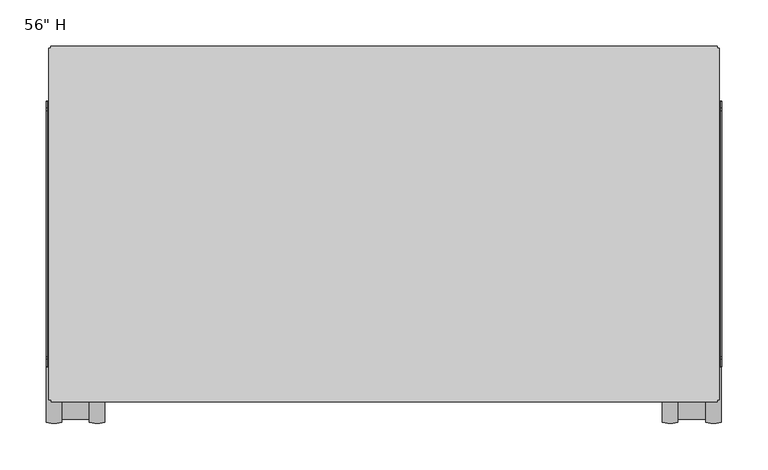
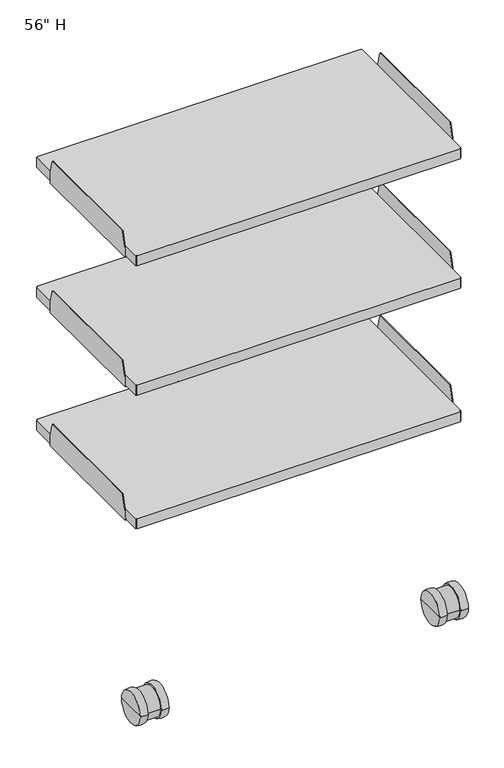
"""IFC4 building model written with IfcOpenShell, lengths in millimetres: furniture geometry."""

from ifc_helpers import new_model, si_unit, point, frame, origin, place, context, project, spatial, polyline, circle_curve, ellipse_curve, trimmed, outline, extrude, faceted_brep, source, transform, mapped, element, save
from ifc_brep_helpers import plane_surface, cylinder_surface, revolved_surface, advanced_brep


def furniture_dcce212d(model_context):
    return source(origin(), model_context, "Body", "SolidModel", [
        advanced_brep(
        [(365.3861713, -354.1500796, 1138.5314214), (365.3861713, -88.5317585, 1138.5314214), (364.3219115, -88.5317409, 1138.5314214), (364.3219115, -354.1500796, 1138.5314214), (365.3861713, -357.216876, 1136.1781857), (365.3861713, -364.9009405, 1107.5008654), (365.3861713, -365.0937117, 1106.0366229), (365.3861713, -365.0937117, 1081.9046453), (365.3861713, -77.5881087, 1081.9046453), (365.3861713, -77.5881087, 1106.0366229), (365.3861713, -77.7808799, 1107.5008654), (365.3861713, -85.4649444, 1136.1781857), (350.8408617, -365.0937117, 1081.9046453), (350.8408617, -77.5881087, 1081.9046453), (350.8408617, -365.0937117, 1082.9689336), (350.8408617, -77.5881087, 1082.9689336), (364.3219115, -365.0937117, 1082.9689336), (364.3219115, -77.5881087, 1082.9689336), (364.3219115, -365.0937117, 1106.0366229), (364.3219115, -364.9009405, 1107.5008654), (364.3219115, -357.216876, 1136.1781857), (364.3219115, -85.4649444, 1136.1781857), (364.3219115, -77.7808799, 1107.5008654), (364.3219115, -77.5881087, 1106.0366229)],
        [
            (0, 1),
            (1, 2),
            (2, 3),
            (3, 0),
            (0, 4, circle_curve(frame((365.3861713, -354.1500796, 1135.3564401), z_axis=(1.0, 0.0, 0.0), x_axis=(0.0, 1.0, 0.0)), 3.1749813)),
            (4, 5),
            (5, 6, circle_curve(frame((365.3861713, -359.4363126, 1106.0366229), z_axis=(1.0, 0.0, 0.0), x_axis=(0.0, 1.0, 0.0)), 5.6573991)),
            (6, 7),
            (7, 8),
            (8, 9),
            (9, 10, circle_curve(frame((365.3861713, -83.2455078, 1106.0366229), z_axis=(1.0, 0.0, 0.0), x_axis=(0.0, 1.0, 0.0)), 5.6573991)),
            (10, 11),
            (11, 1, circle_curve(frame((365.3861713, -88.5317409, 1135.3564401), z_axis=(1.0, 0.0, 0.0), x_axis=(0.0, 1.0, 0.0)), 3.1749813)),
            (7, 12),
            (12, 13),
            (13, 8),
            (12, 14),
            (14, 15),
            (15, 13),
            (14, 16),
            (16, 17),
            (17, 15),
            (16, 18),
            (18, 19, circle_curve(frame((364.3219115, -359.4363126, 1106.0366229), z_axis=(-1.0, 0.0, 0.0), x_axis=(0.0, 1.0, 0.0)), 5.6573991)),
            (19, 20),
            (20, 3, circle_curve(frame((364.3219115, -354.1500796, 1135.3564401), z_axis=(-1.0, 0.0, 0.0), x_axis=(0.0, 1.0, 0.0)), 3.1749813)),
            (2, 21, circle_curve(frame((364.3219115, -88.5317409, 1135.3564401), z_axis=(-1.0, 0.0, 0.0), x_axis=(0.0, 1.0, 0.0)), 3.1749813)),
            (21, 22),
            (22, 23, circle_curve(frame((364.3219115, -83.2455078, 1106.0366229), z_axis=(-1.0, 0.0, 0.0), x_axis=(0.0, 1.0, 0.0)), 5.6573991)),
            (23, 17),
            (9, 23),
            (22, 10),
            (11, 21),
            (4, 20),
            (19, 5),
            (6, 18),
        ],
        [
            plane_surface(frame((365.3861713, -372.4896789, 1138.5314214), z_axis=(0.0, 0.0, 1.0), x_axis=(0.0, 1.0, 0.0))),
            plane_surface(frame((365.3861713, -372.4896789, 1081.9046453), z_axis=(1.0, 0.0, 0.0), x_axis=(0.0, 1.0, 0.0))),
            plane_surface(frame((350.8408617, -372.4896789, 1081.9046453), z_axis=(0.0, 0.0, -1.0), x_axis=(0.0, 1.0, 0.0))),
            plane_surface(frame((350.8408617, -372.4896789, 1082.9689336), z_axis=(-1.0, 0.0, 0.0), x_axis=(0.0, 1.0, 0.0))),
            plane_surface(frame((364.3219115, -372.4896789, 1082.9689336), z_axis=(0.0, 0.0, 1.0), x_axis=(0.0, 1.0, 0.0))),
            plane_surface(frame((364.3219115, -372.4896789, 1138.5314214), z_axis=(-1.0, 0.0, 0.0), x_axis=(0.0, 1.0, 0.0))),
            cylinder_surface(frame((396.9108471, -83.2455078, 1106.0366229), z_axis=(1.0, 0.0, 0.0), x_axis=(0.0, 1.0, 0.0)), 5.6573991),
            plane_surface(frame((319.5267461, -77.5881087, 1076.7225019), z_axis=(0.0, 1.0, 0.0), x_axis=(1.0, 0.0, 0.0))),
            cylinder_surface(frame((396.9108471, -88.5317409, 1135.3564401), z_axis=(1.0, 0.0, 0.0), x_axis=(0.0, 1.0, 0.0)), 3.1749813),
            plane_surface(frame((319.5267461, -77.7808799, 1107.5008654), z_axis=(0.0, 0.9659258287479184, 0.25881903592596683), x_axis=(1.0, 0.0, 0.0))),
            plane_surface(frame((319.5267461, -357.216876, 1136.1781857), z_axis=(0.0, -0.9659258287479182, 0.25881903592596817), x_axis=(1.0, 0.0, 0.0))),
            cylinder_surface(frame((381.5127972, -354.1500796, 1135.3564401), z_axis=(1.0, 0.0, 0.0), x_axis=(0.0, 1.0, 0.0)), 3.1749813),
            plane_surface(frame((319.5267461, -365.0937117, 1106.0366229), z_axis=(0.0, -1.0, 0.0), x_axis=(1.0, 0.0, 0.0))),
            cylinder_surface(frame((381.5127972, -359.4363126, 1106.0366229), z_axis=(1.0, 0.0, 0.0), x_axis=(0.0, 1.0, 0.0)), 5.6573991),
        ],
        [
            (0, [[1, 2, 3, 4]]),
            (1, [[-1, 5, 6, 7, 8, 9, 10, 11, 12, 13]]),
            (2, [[-9, 14, 15, 16]]),
            (3, [[-15, 17, 18, 19]]),
            (4, [[-18, 20, 21, 22]]),
            (5, [[-21, 23, 24, 25, 26, -3, 27, 28, 29, 30]]),
            (6, [[31, -29, 32, -11]]),
            (7, [[-31, -10, -16, -19, -22, -30]]),
            (8, [[33, -27, -2, -13]]),
            (9, [[-33, -12, -32, -28]]),
            (10, [[34, -25, 35, -6]]),
            (11, [[-34, -5, -4, -26]]),
            (12, [[36, -23, -20, -17, -14, -8]]),
            (13, [[-36, -7, -35, -24]]),
        ],
    ),
        advanced_brep(
        [(-363.8091143, -354.1500796, 1138.5314214), (-363.8091143, -88.5317585, 1138.5314214), (-364.8733741, -88.5317409, 1138.5314214), (-364.8733741, -354.1500796, 1138.5314214), (-364.8733741, -85.4649444, 1136.1781857), (-364.8733741, -77.7808799, 1107.5008654), (-364.8733741, -77.5881087, 1106.0366229), (-364.8733741, -77.5881087, 1081.9046453), (-364.8733741, -365.0937117, 1081.9046453), (-364.8733741, -365.0937117, 1106.0366229), (-364.8733741, -364.9009405, 1107.5008654), (-364.8733741, -357.216876, 1136.1781857), (-350.3280645, -77.5881087, 1081.9046453), (-350.3280645, -365.0937117, 1081.9046453), (-350.3280645, -77.5881087, 1082.9689336), (-350.3280645, -365.0937117, 1082.9689336), (-363.8091143, -77.5881087, 1082.9689336), (-363.8091143, -365.0937117, 1082.9689336), (-363.8091143, -357.216876, 1136.1781857), (-363.8091143, -364.9009405, 1107.5008654), (-363.8091143, -365.0937117, 1106.0366229), (-363.8091143, -77.5881087, 1106.0366229), (-363.8091143, -77.7808799, 1107.5008654), (-363.8091143, -85.4649444, 1136.1781857)],
        [
            (0, 1),
            (1, 2),
            (2, 3),
            (3, 0),
            (2, 4, circle_curve(frame((-364.8733741, -88.5317409, 1135.3564401), z_axis=(-1.0, 0.0, 0.0), x_axis=(0.0, 1.0, 0.0)), 3.1749813)),
            (4, 5),
            (5, 6, circle_curve(frame((-364.8733741, -83.2455078, 1106.0366229), z_axis=(-1.0, 0.0, 0.0), x_axis=(0.0, 1.0, 0.0)), 5.6573991)),
            (6, 7),
            (7, 8),
            (8, 9),
            (9, 10, circle_curve(frame((-364.8733741, -359.4363126, 1106.0366229), z_axis=(-1.0, 0.0, 0.0), x_axis=(0.0, 1.0, 0.0)), 5.6573991)),
            (10, 11),
            (11, 3, circle_curve(frame((-364.8733741, -354.1500796, 1135.3564401), z_axis=(-1.0, 0.0, 0.0), x_axis=(0.0, 1.0, 0.0)), 3.1749813)),
            (7, 12),
            (12, 13),
            (13, 8),
            (12, 14),
            (14, 15),
            (15, 13),
            (14, 16),
            (16, 17),
            (17, 15),
            (0, 18, circle_curve(frame((-363.8091143, -354.1500796, 1135.3564401), z_axis=(1.0, 0.0, 0.0), x_axis=(0.0, 1.0, 0.0)), 3.1749813)),
            (18, 19),
            (19, 20, circle_curve(frame((-363.8091143, -359.4363126, 1106.0366229), z_axis=(1.0, 0.0, 0.0), x_axis=(0.0, 1.0, 0.0)), 5.6573991)),
            (20, 17),
            (16, 21),
            (21, 22, circle_curve(frame((-363.8091143, -83.2455078, 1106.0366229), z_axis=(1.0, 0.0, 0.0), x_axis=(0.0, 1.0, 0.0)), 5.6573991)),
            (22, 23),
            (23, 1, circle_curve(frame((-363.8091143, -88.5317409, 1135.3564401), z_axis=(1.0, 0.0, 0.0), x_axis=(0.0, 1.0, 0.0)), 3.1749813)),
            (5, 22),
            (21, 6),
            (23, 4),
            (10, 19),
            (18, 11),
            (20, 9),
        ],
        [
            plane_surface(frame((-363.8091143, -372.4896789, 1138.5314214), z_axis=(0.0, 0.0, 1.0), x_axis=(0.0, 1.0, 0.0))),
            plane_surface(frame((-364.8733741, -372.4896789, 1138.5314214), z_axis=(-1.0, 0.0, 0.0), x_axis=(0.0, 1.0, 0.0))),
            plane_surface(frame((-364.8733741, -372.4896789, 1081.9046453), z_axis=(0.0, 0.0, -1.0), x_axis=(0.0, 1.0, 0.0))),
            plane_surface(frame((-350.3280645, -372.4896789, 1081.9046453), z_axis=(1.0, 0.0, 0.0), x_axis=(0.0, 1.0, 0.0))),
            plane_surface(frame((-350.3280645, -372.4896789, 1082.9689336), z_axis=(0.0, 0.0, 1.0), x_axis=(0.0, 1.0, 0.0))),
            plane_surface(frame((-363.8091143, -372.4896789, 1082.9689336), z_axis=(1.0, 0.0, 0.0), x_axis=(0.0, 1.0, 0.0))),
            cylinder_surface(frame((-396.3980499, -83.2455078, 1106.0366229), z_axis=(-1.0, 0.0, 0.0), x_axis=(0.0, 1.0, 0.0)), 5.6573991),
            plane_surface(frame((-319.0139489, -77.5881087, 1106.0366229), z_axis=(0.0, 1.0, 0.0), x_axis=(-1.0, 0.0, 0.0))),
            cylinder_surface(frame((-396.3980499, -88.5317409, 1135.3564401), z_axis=(-1.0, 0.0, 0.0), x_axis=(0.0, 1.0, 0.0)), 3.1749813),
            plane_surface(frame((-319.0139489, -85.4649444, 1136.1781857), z_axis=(0.0, 0.9659258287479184, 0.25881903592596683), x_axis=(-1.0, 0.0, 0.0))),
            plane_surface(frame((-319.0139489, -364.9009405, 1107.5008654), z_axis=(0.0, -0.9659258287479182, 0.25881903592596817), x_axis=(-1.0, 0.0, 0.0))),
            cylinder_surface(frame((-381.0, -354.1500796, 1135.3564401), z_axis=(-1.0, 0.0, 0.0), x_axis=(0.0, 1.0, 0.0)), 3.1749813),
            plane_surface(frame((-319.0139489, -365.0937117, 1076.7225019), z_axis=(0.0, -1.0, 0.0), x_axis=(-1.0, 0.0, 0.0))),
            cylinder_surface(frame((-381.0, -359.4363126, 1106.0366229), z_axis=(-1.0, 0.0, 0.0), x_axis=(0.0, 1.0, 0.0)), 5.6573991),
        ],
        [
            (0, [[1, 2, 3, 4]]),
            (1, [[-3, 5, 6, 7, 8, 9, 10, 11, 12, 13]]),
            (2, [[-9, 14, 15, 16]]),
            (3, [[-15, 17, 18, 19]]),
            (4, [[-18, 20, 21, 22]]),
            (5, [[-1, 23, 24, 25, 26, -21, 27, 28, 29, 30]]),
            (6, [[31, -28, 32, -7]]),
            (7, [[-32, -27, -20, -17, -14, -8]]),
            (8, [[33, -5, -2, -30]]),
            (9, [[-31, -6, -33, -29]]),
            (10, [[34, -24, 35, -12]]),
            (11, [[-35, -23, -4, -13]]),
            (12, [[36, -10, -16, -19, -22, -26]]),
            (13, [[-34, -11, -36, -25]]),
        ],
    ),
        extrude(outline(polyline([(-349.4884347, -388.481394), (-360.8620793, -399.8550385), (-360.8620793, -21.7189052), (-349.4884347, -33.0925498), (-349.4884347, -388.481394)])), frame((0.0, 0.0, 1083.0128626), z_axis=(0.0, 0.0, 1.0), x_axis=(1.0, 0.0, 0.0)), (0.0, 0.0, 1.0), 1.1600309),
        extrude(outline(polyline([(-347.1583906, -390.6316916), (347.6711878, -390.6316916), (359.1880962, -402.1486001), (-358.6752991, -402.1486001), (-347.1583906, -390.6316916)])), frame((0.0, 0.0, 1083.0128626), z_axis=(0.0, 0.0, 1.0), x_axis=(1.0, 0.0, 0.0)), (0.0, 0.0, 1.0), 1.1600309),
        extrude(outline(polyline([(350.0012319, -388.481394), (350.0012319, -33.0925498), (361.3748764, -21.7189052), (361.3748764, -399.8550385), (350.0012319, -388.481394)])), frame((0.0, 0.0, 1083.0128626), z_axis=(0.0, 0.0, 1.0), x_axis=(1.0, 0.0, 0.0)), (0.0, 0.0, 1.0), 1.1600309),
        extrude(outline(polyline([(-347.1583906, -30.9422521), (-358.6752991, -19.4253437), (359.1880962, -19.4253437), (347.6711878, -30.9422521), (-347.1583906, -30.9422521)])), frame((0.0, 0.0, 1083.0128626), z_axis=(0.0, 0.0, 1.0), x_axis=(1.0, 0.0, 0.0)), (0.0, 0.0, 1.0), 1.1600309),
        faceted_brep([(-359.7667053, -403.2400064, 1106.4875), (360.2856307, -403.2400064, 1106.4875), (360.2856307, -401.0456635, 1106.4875), (362.6092621, -401.0456635, 1106.4875), (362.6092621, -20.5731343, 1106.4875), (360.3232824, -20.5731343, 1106.4875), (360.3232824, -18.2422801, 1106.4875), (-359.8401436, -18.2422801, 1106.4875), (-359.8401436, -20.5282802, 1106.4875), (-362.0527043, -20.5282802, 1106.4875), (-362.0527043, -401.0456635, 1106.4875), (-359.7667053, -401.0456635, 1106.4875), (-362.0527043, -401.0456635, 1082.9689336), (-362.0527043, -20.5282802, 1082.9689336), (-360.8403128, -20.5282802, 1082.9689336), (-360.8403128, -401.0456635, 1082.9689336), (-359.8401436, -18.2422801, 1082.9689336), (360.3232824, -18.2422801, 1082.9689336), (360.3232824, -19.4577869, 1082.9689336), (-359.8401436, -19.4577869, 1082.9689336), (362.6092621, -20.5731343, 1082.9689336), (362.6092621, -401.0456635, 1082.9689336), (361.3692615, -401.0456635, 1082.9689336), (361.3692615, -20.5731343, 1082.9689336), (360.2856307, -403.2400064, 1082.9689336), (-359.7667053, -403.2400064, 1082.9689336), (-359.7667053, -402.1342029, 1082.9689336), (360.2856307, -402.1342029, 1082.9689336), (360.2856307, -402.1342029, 1105.5901545), (360.2856307, -401.0456635, 1105.5901545), (361.3692615, -401.0456635, 1105.5901545), (361.3692615, -20.5731343, 1105.5901545), (360.3232824, -20.5731343, 1105.5901545), (360.3232824, -19.4577869, 1105.5901545), (-359.8401436, -19.4577869, 1105.5901545), (-359.8401436, -20.5282802, 1105.5901545), (-360.8403128, -20.5282802, 1105.5901545), (-360.8403128, -401.0456635, 1105.5901545), (-359.7667053, -401.0456635, 1105.5901545), (-359.7667053, -402.1342029, 1105.5901545)], [[[0, 1, 2, 3, 4, 5, 6, 7, 8, 9, 10, 11]], [[12, 13, 14, 15]], [[16, 17, 18, 19]], [[20, 21, 22, 23]], [[24, 25, 26, 27]], [[1, 0, 25, 24]], [[2, 1, 24, 27, 28, 29]], [[3, 2, 29, 30, 22, 21]], [[4, 3, 21, 20]], [[5, 4, 20, 23, 31, 32]], [[6, 5, 32, 33, 18, 17]], [[7, 6, 17, 16]], [[8, 7, 16, 19, 34, 35]], [[9, 8, 35, 36, 14, 13]], [[10, 9, 13, 12]], [[11, 10, 12, 15, 37, 38]], [[0, 11, 38, 39, 26, 25]], [[28, 39, 38, 37, 36, 35, 34, 33, 32, 31, 30, 29]], [[30, 31, 23, 22]], [[33, 34, 19, 18]], [[36, 37, 15, 14]], [[39, 28, 27, 26]]]),
        advanced_brep(
        [(365.3861713, -354.1500796, 833.7314214), (365.3861713, -88.5317585, 833.7314214), (364.3219115, -88.5317409, 833.7314214), (364.3219115, -354.1500796, 833.7314214), (365.3861713, -357.216876, 831.3781857), (365.3861713, -364.9009405, 802.7008654), (365.3861713, -365.0937117, 801.2366229), (365.3861713, -365.0937117, 777.1046453), (365.3861713, -77.5881087, 777.1046453), (365.3861713, -77.5881087, 801.2366229), (365.3861713, -77.7808799, 802.7008654), (365.3861713, -85.4649444, 831.3781857), (350.8408617, -365.0937117, 777.1046453), (350.8408617, -77.5881087, 777.1046453), (350.8408617, -365.0937117, 778.1689336), (350.8408617, -77.5881087, 778.1689336), (364.3219115, -365.0937117, 778.1689336), (364.3219115, -77.5881087, 778.1689336), (364.3219115, -365.0937117, 801.2366229), (364.3219115, -364.9009405, 802.7008654), (364.3219115, -357.216876, 831.3781857), (364.3219115, -85.4649444, 831.3781857), (364.3219115, -77.7808799, 802.7008654), (364.3219115, -77.5881087, 801.2366229)],
        [
            (0, 1),
            (1, 2),
            (2, 3),
            (3, 0),
            (0, 4, circle_curve(frame((365.3861713, -354.1500796, 830.5564401), z_axis=(1.0, 0.0, 0.0), x_axis=(0.0, 1.0, 0.0)), 3.1749813)),
            (4, 5),
            (5, 6, circle_curve(frame((365.3861713, -359.4363126, 801.2366229), z_axis=(1.0, 0.0, 0.0), x_axis=(0.0, 1.0, 0.0)), 5.6573991)),
            (6, 7),
            (7, 8),
            (8, 9),
            (9, 10, circle_curve(frame((365.3861713, -83.2455078, 801.2366229), z_axis=(1.0, 0.0, 0.0), x_axis=(0.0, 1.0, 0.0)), 5.6573991)),
            (10, 11),
            (11, 1, circle_curve(frame((365.3861713, -88.5317409, 830.5564401), z_axis=(1.0, 0.0, 0.0), x_axis=(0.0, 1.0, 0.0)), 3.1749813)),
            (7, 12),
            (12, 13),
            (13, 8),
            (12, 14),
            (14, 15),
            (15, 13),
            (14, 16),
            (16, 17),
            (17, 15),
            (16, 18),
            (18, 19, circle_curve(frame((364.3219115, -359.4363126, 801.2366229), z_axis=(-1.0, 0.0, 0.0), x_axis=(0.0, 1.0, 0.0)), 5.6573991)),
            (19, 20),
            (20, 3, circle_curve(frame((364.3219115, -354.1500796, 830.5564401), z_axis=(-1.0, 0.0, 0.0), x_axis=(0.0, 1.0, 0.0)), 3.1749813)),
            (2, 21, circle_curve(frame((364.3219115, -88.5317409, 830.5564401), z_axis=(-1.0, 0.0, 0.0), x_axis=(0.0, 1.0, 0.0)), 3.1749813)),
            (21, 22),
            (22, 23, circle_curve(frame((364.3219115, -83.2455078, 801.2366229), z_axis=(-1.0, 0.0, 0.0), x_axis=(0.0, 1.0, 0.0)), 5.6573991)),
            (23, 17),
            (9, 23),
            (22, 10),
            (11, 21),
            (4, 20),
            (19, 5),
            (6, 18),
        ],
        [
            plane_surface(frame((365.3861713, -372.4896789, 833.7314214), z_axis=(0.0, 0.0, 1.0), x_axis=(0.0, 1.0, 0.0))),
            plane_surface(frame((365.3861713, -372.4896789, 777.1046453), z_axis=(1.0, 0.0, 0.0), x_axis=(0.0, 1.0, 0.0))),
            plane_surface(frame((350.8408617, -372.4896789, 777.1046453), z_axis=(0.0, 0.0, -1.0), x_axis=(0.0, 1.0, 0.0))),
            plane_surface(frame((350.8408617, -372.4896789, 778.1689336), z_axis=(-1.0, 0.0, 0.0), x_axis=(0.0, 1.0, 0.0))),
            plane_surface(frame((364.3219115, -372.4896789, 778.1689336), z_axis=(0.0, 0.0, 1.0), x_axis=(0.0, 1.0, 0.0))),
            plane_surface(frame((364.3219115, -372.4896789, 833.7314214), z_axis=(-1.0, 0.0, 0.0), x_axis=(0.0, 1.0, 0.0))),
            cylinder_surface(frame((396.9108471, -83.2455078, 801.2366229), z_axis=(1.0, 0.0, 0.0), x_axis=(0.0, 1.0, 0.0)), 5.6573991),
            plane_surface(frame((319.5267461, -77.5881087, 771.9225019), z_axis=(0.0, 1.0, 0.0), x_axis=(1.0, 0.0, 0.0))),
            cylinder_surface(frame((396.9108471, -88.5317409, 830.5564401), z_axis=(1.0, 0.0, 0.0), x_axis=(0.0, 1.0, 0.0)), 3.1749813),
            plane_surface(frame((319.5267461, -77.7808799, 802.7008654), z_axis=(0.0, 0.9659258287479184, 0.25881903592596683), x_axis=(1.0, 0.0, 0.0))),
            plane_surface(frame((319.5267461, -357.216876, 831.3781857), z_axis=(0.0, -0.9659258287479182, 0.25881903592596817), x_axis=(1.0, 0.0, 0.0))),
            cylinder_surface(frame((381.5127972, -354.1500796, 830.5564401), z_axis=(1.0, 0.0, 0.0), x_axis=(0.0, 1.0, 0.0)), 3.1749813),
            plane_surface(frame((319.5267461, -365.0937117, 801.2366229), z_axis=(0.0, -1.0, 0.0), x_axis=(1.0, 0.0, 0.0))),
            cylinder_surface(frame((381.5127972, -359.4363126, 801.2366229), z_axis=(1.0, 0.0, 0.0), x_axis=(0.0, 1.0, 0.0)), 5.6573991),
        ],
        [
            (0, [[1, 2, 3, 4]]),
            (1, [[-1, 5, 6, 7, 8, 9, 10, 11, 12, 13]]),
            (2, [[-9, 14, 15, 16]]),
            (3, [[-15, 17, 18, 19]]),
            (4, [[-18, 20, 21, 22]]),
            (5, [[-21, 23, 24, 25, 26, -3, 27, 28, 29, 30]]),
            (6, [[31, -29, 32, -11]]),
            (7, [[-31, -10, -16, -19, -22, -30]]),
            (8, [[33, -27, -2, -13]]),
            (9, [[-33, -12, -32, -28]]),
            (10, [[34, -25, 35, -6]]),
            (11, [[-34, -5, -4, -26]]),
            (12, [[36, -23, -20, -17, -14, -8]]),
            (13, [[-36, -7, -35, -24]]),
        ],
    ),
        advanced_brep(
        [(-363.8091143, -354.1500796, 833.7314214), (-363.8091143, -88.5317585, 833.7314214), (-364.8733741, -88.5317409, 833.7314214), (-364.8733741, -354.1500796, 833.7314214), (-364.8733741, -85.4649444, 831.3781857), (-364.8733741, -77.7808799, 802.7008654), (-364.8733741, -77.5881087, 801.2366229), (-364.8733741, -77.5881087, 777.1046453), (-364.8733741, -365.0937117, 777.1046453), (-364.8733741, -365.0937117, 801.2366229), (-364.8733741, -364.9009405, 802.7008654), (-364.8733741, -357.216876, 831.3781857), (-350.3280645, -77.5881087, 777.1046453), (-350.3280645, -365.0937117, 777.1046453), (-350.3280645, -77.5881087, 778.1689336), (-350.3280645, -365.0937117, 778.1689336), (-363.8091143, -77.5881087, 778.1689336), (-363.8091143, -365.0937117, 778.1689336), (-363.8091143, -357.216876, 831.3781857), (-363.8091143, -364.9009405, 802.7008654), (-363.8091143, -365.0937117, 801.2366229), (-363.8091143, -77.5881087, 801.2366229), (-363.8091143, -77.7808799, 802.7008654), (-363.8091143, -85.4649444, 831.3781857)],
        [
            (0, 1),
            (1, 2),
            (2, 3),
            (3, 0),
            (2, 4, circle_curve(frame((-364.8733741, -88.5317409, 830.5564401), z_axis=(-1.0, 0.0, 0.0), x_axis=(0.0, 1.0, 0.0)), 3.1749813)),
            (4, 5),
            (5, 6, circle_curve(frame((-364.8733741, -83.2455078, 801.2366229), z_axis=(-1.0, 0.0, 0.0), x_axis=(0.0, 1.0, 0.0)), 5.6573991)),
            (6, 7),
            (7, 8),
            (8, 9),
            (9, 10, circle_curve(frame((-364.8733741, -359.4363126, 801.2366229), z_axis=(-1.0, 0.0, 0.0), x_axis=(0.0, 1.0, 0.0)), 5.6573991)),
            (10, 11),
            (11, 3, circle_curve(frame((-364.8733741, -354.1500796, 830.5564401), z_axis=(-1.0, 0.0, 0.0), x_axis=(0.0, 1.0, 0.0)), 3.1749813)),
            (7, 12),
            (12, 13),
            (13, 8),
            (12, 14),
            (14, 15),
            (15, 13),
            (14, 16),
            (16, 17),
            (17, 15),
            (0, 18, circle_curve(frame((-363.8091143, -354.1500796, 830.5564401), z_axis=(1.0, 0.0, 0.0), x_axis=(0.0, 1.0, 0.0)), 3.1749813)),
            (18, 19),
            (19, 20, circle_curve(frame((-363.8091143, -359.4363126, 801.2366229), z_axis=(1.0, 0.0, 0.0), x_axis=(0.0, 1.0, 0.0)), 5.6573991)),
            (20, 17),
            (16, 21),
            (21, 22, circle_curve(frame((-363.8091143, -83.2455078, 801.2366229), z_axis=(1.0, 0.0, 0.0), x_axis=(0.0, 1.0, 0.0)), 5.6573991)),
            (22, 23),
            (23, 1, circle_curve(frame((-363.8091143, -88.5317409, 830.5564401), z_axis=(1.0, 0.0, 0.0), x_axis=(0.0, 1.0, 0.0)), 3.1749813)),
            (5, 22),
            (21, 6),
            (23, 4),
            (10, 19),
            (18, 11),
            (20, 9),
        ],
        [
            plane_surface(frame((-363.8091143, -372.4896789, 833.7314214), z_axis=(0.0, 0.0, 1.0), x_axis=(0.0, 1.0, 0.0))),
            plane_surface(frame((-364.8733741, -372.4896789, 833.7314214), z_axis=(-1.0, 0.0, 0.0), x_axis=(0.0, 1.0, 0.0))),
            plane_surface(frame((-364.8733741, -372.4896789, 777.1046453), z_axis=(0.0, 0.0, -1.0), x_axis=(0.0, 1.0, 0.0))),
            plane_surface(frame((-350.3280645, -372.4896789, 777.1046453), z_axis=(1.0, 0.0, 0.0), x_axis=(0.0, 1.0, 0.0))),
            plane_surface(frame((-350.3280645, -372.4896789, 778.1689336), z_axis=(0.0, 0.0, 1.0), x_axis=(0.0, 1.0, 0.0))),
            plane_surface(frame((-363.8091143, -372.4896789, 778.1689336), z_axis=(1.0, 0.0, 0.0), x_axis=(0.0, 1.0, 0.0))),
            cylinder_surface(frame((-396.3980499, -83.2455078, 801.2366229), z_axis=(-1.0, 0.0, 0.0), x_axis=(0.0, 1.0, 0.0)), 5.6573991),
            plane_surface(frame((-319.0139489, -77.5881087, 801.2366229), z_axis=(0.0, 1.0, 0.0), x_axis=(-1.0, 0.0, 0.0))),
            cylinder_surface(frame((-396.3980499, -88.5317409, 830.5564401), z_axis=(-1.0, 0.0, 0.0), x_axis=(0.0, 1.0, 0.0)), 3.1749813),
            plane_surface(frame((-319.0139489, -85.4649444, 831.3781857), z_axis=(0.0, 0.9659258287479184, 0.25881903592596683), x_axis=(-1.0, 0.0, 0.0))),
            plane_surface(frame((-319.0139489, -364.9009405, 802.7008654), z_axis=(0.0, -0.9659258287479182, 0.25881903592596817), x_axis=(-1.0, 0.0, 0.0))),
            cylinder_surface(frame((-381.0, -354.1500796, 830.5564401), z_axis=(-1.0, 0.0, 0.0), x_axis=(0.0, 1.0, 0.0)), 3.1749813),
            plane_surface(frame((-319.0139489, -365.0937117, 771.9225019), z_axis=(0.0, -1.0, 0.0), x_axis=(-1.0, 0.0, 0.0))),
            cylinder_surface(frame((-381.0, -359.4363126, 801.2366229), z_axis=(-1.0, 0.0, 0.0), x_axis=(0.0, 1.0, 0.0)), 5.6573991),
        ],
        [
            (0, [[1, 2, 3, 4]]),
            (1, [[-3, 5, 6, 7, 8, 9, 10, 11, 12, 13]]),
            (2, [[-9, 14, 15, 16]]),
            (3, [[-15, 17, 18, 19]]),
            (4, [[-18, 20, 21, 22]]),
            (5, [[-1, 23, 24, 25, 26, -21, 27, 28, 29, 30]]),
            (6, [[31, -28, 32, -7]]),
            (7, [[-32, -27, -20, -17, -14, -8]]),
            (8, [[33, -5, -2, -30]]),
            (9, [[-31, -6, -33, -29]]),
            (10, [[34, -24, 35, -12]]),
            (11, [[-35, -23, -4, -13]]),
            (12, [[36, -10, -16, -19, -22, -26]]),
            (13, [[-34, -11, -36, -25]]),
        ],
    ),
        extrude(outline(polyline([(-349.4884347, -388.481394), (-360.8620793, -399.8550385), (-360.8620793, -21.7189052), (-349.4884347, -33.0925498), (-349.4884347, -388.481394)])), frame((0.0, 0.0, 778.2128626), z_axis=(0.0, 0.0, 1.0), x_axis=(1.0, 0.0, 0.0)), (0.0, 0.0, 1.0), 1.1600309),
        extrude(outline(polyline([(-347.1583906, -390.6316916), (347.6711878, -390.6316916), (359.1880962, -402.1486001), (-358.6752991, -402.1486001), (-347.1583906, -390.6316916)])), frame((0.0, 0.0, 778.2128626), z_axis=(0.0, 0.0, 1.0), x_axis=(1.0, 0.0, 0.0)), (0.0, 0.0, 1.0), 1.1600309),
        extrude(outline(polyline([(350.0012319, -388.481394), (350.0012319, -33.0925498), (361.3748764, -21.7189052), (361.3748764, -399.8550385), (350.0012319, -388.481394)])), frame((0.0, 0.0, 778.2128626), z_axis=(0.0, 0.0, 1.0), x_axis=(1.0, 0.0, 0.0)), (0.0, 0.0, 1.0), 1.1600309),
        extrude(outline(polyline([(-347.1583906, -30.9422521), (-358.6752991, -19.4253437), (359.1880962, -19.4253437), (347.6711878, -30.9422521), (-347.1583906, -30.9422521)])), frame((0.0, 0.0, 778.2128626), z_axis=(0.0, 0.0, 1.0), x_axis=(1.0, 0.0, 0.0)), (0.0, 0.0, 1.0), 1.1600309),
        faceted_brep([(-359.7667053, -403.2400064, 801.6875), (360.2856307, -403.2400064, 801.6875), (360.2856307, -401.0456635, 801.6875), (362.6092621, -401.0456635, 801.6875), (362.6092621, -20.5731343, 801.6875), (360.3232824, -20.5731343, 801.6875), (360.3232824, -18.2422801, 801.6875), (-359.8401436, -18.2422801, 801.6875), (-359.8401436, -20.5282802, 801.6875), (-362.0527043, -20.5282802, 801.6875), (-362.0527043, -401.0456635, 801.6875), (-359.7667053, -401.0456635, 801.6875), (-362.0527043, -401.0456635, 778.1689336), (-362.0527043, -20.5282802, 778.1689336), (-360.8403128, -20.5282802, 778.1689336), (-360.8403128, -401.0456635, 778.1689336), (-359.8401436, -18.2422801, 778.1689336), (360.3232824, -18.2422801, 778.1689336), (360.3232824, -19.4577869, 778.1689336), (-359.8401436, -19.4577869, 778.1689336), (362.6092621, -20.5731343, 778.1689336), (362.6092621, -401.0456635, 778.1689336), (361.3692615, -401.0456635, 778.1689336), (361.3692615, -20.5731343, 778.1689336), (360.2856307, -403.2400064, 778.1689336), (-359.7667053, -403.2400064, 778.1689336), (-359.7667053, -402.1342029, 778.1689336), (360.2856307, -402.1342029, 778.1689336), (360.2856307, -402.1342029, 800.7901545), (360.2856307, -401.0456635, 800.7901545), (361.3692615, -401.0456635, 800.7901545), (361.3692615, -20.5731343, 800.7901545), (360.3232824, -20.5731343, 800.7901545), (360.3232824, -19.4577869, 800.7901545), (-359.8401436, -19.4577869, 800.7901545), (-359.8401436, -20.5282802, 800.7901545), (-360.8403128, -20.5282802, 800.7901545), (-360.8403128, -401.0456635, 800.7901545), (-359.7667053, -401.0456635, 800.7901545), (-359.7667053, -402.1342029, 800.7901545)], [[[0, 1, 2, 3, 4, 5, 6, 7, 8, 9, 10, 11]], [[12, 13, 14, 15]], [[16, 17, 18, 19]], [[20, 21, 22, 23]], [[24, 25, 26, 27]], [[1, 0, 25, 24]], [[2, 1, 24, 27, 28, 29]], [[3, 2, 29, 30, 22, 21]], [[4, 3, 21, 20]], [[5, 4, 20, 23, 31, 32]], [[6, 5, 32, 33, 18, 17]], [[7, 6, 17, 16]], [[8, 7, 16, 19, 34, 35]], [[9, 8, 35, 36, 14, 13]], [[10, 9, 13, 12]], [[11, 10, 12, 15, 37, 38]], [[0, 11, 38, 39, 26, 25]], [[28, 39, 38, 37, 36, 35, 34, 33, 32, 31, 30, 29]], [[30, 31, 23, 22]], [[33, 34, 19, 18]], [[36, 37, 15, 14]], [[39, 28, 27, 26]]]),
        advanced_brep(
        [(365.3861713, -354.1500796, 520.3930904), (365.3861713, -88.5317585, 520.3930904), (364.3219115, -88.5317409, 520.3930904), (364.3219115, -354.1500796, 520.3930904), (365.3861713, -357.216876, 518.0398547), (365.3861713, -364.9009405, 489.3625344), (365.3861713, -365.0937117, 487.8982919), (365.3861713, -365.0937117, 463.7663143), (365.3861713, -77.5881087, 463.7663143), (365.3861713, -77.5881087, 487.8982919), (365.3861713, -77.7808799, 489.3625344), (365.3861713, -85.4649444, 518.0398547), (350.8408617, -365.0937117, 463.7663143), (350.8408617, -77.5881087, 463.7663143), (350.8408617, -365.0937117, 464.8306026), (350.8408617, -77.5881087, 464.8306026), (364.3219115, -365.0937117, 464.8306026), (364.3219115, -77.5881087, 464.8306026), (364.3219115, -365.0937117, 487.8982919), (364.3219115, -364.9009405, 489.3625344), (364.3219115, -357.216876, 518.0398547), (364.3219115, -85.4649444, 518.0398547), (364.3219115, -77.7808799, 489.3625344), (364.3219115, -77.5881087, 487.8982919)],
        [
            (0, 1),
            (1, 2),
            (2, 3),
            (3, 0),
            (0, 4, circle_curve(frame((365.3861713, -354.1500796, 517.2181091), z_axis=(1.0, 0.0, 0.0), x_axis=(0.0, 1.0, 0.0)), 3.1749813)),
            (4, 5),
            (5, 6, circle_curve(frame((365.3861713, -359.4363126, 487.8982919), z_axis=(1.0, 0.0, 0.0), x_axis=(0.0, 1.0, 0.0)), 5.6573991)),
            (6, 7),
            (7, 8),
            (8, 9),
            (9, 10, circle_curve(frame((365.3861713, -83.2455078, 487.8982919), z_axis=(1.0, 0.0, 0.0), x_axis=(0.0, 1.0, 0.0)), 5.6573991)),
            (10, 11),
            (11, 1, circle_curve(frame((365.3861713, -88.5317409, 517.2181091), z_axis=(1.0, 0.0, 0.0), x_axis=(0.0, 1.0, 0.0)), 3.1749813)),
            (7, 12),
            (12, 13),
            (13, 8),
            (12, 14),
            (14, 15),
            (15, 13),
            (14, 16),
            (16, 17),
            (17, 15),
            (16, 18),
            (18, 19, circle_curve(frame((364.3219115, -359.4363126, 487.8982919), z_axis=(-1.0, 0.0, 0.0), x_axis=(0.0, 1.0, 0.0)), 5.6573991)),
            (19, 20),
            (20, 3, circle_curve(frame((364.3219115, -354.1500796, 517.2181091), z_axis=(-1.0, 0.0, 0.0), x_axis=(0.0, 1.0, 0.0)), 3.1749813)),
            (2, 21, circle_curve(frame((364.3219115, -88.5317409, 517.2181091), z_axis=(-1.0, 0.0, 0.0), x_axis=(0.0, 1.0, 0.0)), 3.1749813)),
            (21, 22),
            (22, 23, circle_curve(frame((364.3219115, -83.2455078, 487.8982919), z_axis=(-1.0, 0.0, 0.0), x_axis=(0.0, 1.0, 0.0)), 5.6573991)),
            (23, 17),
            (9, 23),
            (22, 10),
            (11, 21),
            (4, 20),
            (19, 5),
            (6, 18),
        ],
        [
            plane_surface(frame((365.3861713, -372.4896789, 520.3930904), z_axis=(0.0, 0.0, 1.0), x_axis=(0.0, 1.0, 0.0))),
            plane_surface(frame((365.3861713, -372.4896789, 463.7663143), z_axis=(1.0, 0.0, 0.0), x_axis=(0.0, 1.0, 0.0))),
            plane_surface(frame((350.8408617, -372.4896789, 463.7663143), z_axis=(0.0, 0.0, -1.0), x_axis=(0.0, 1.0, 0.0))),
            plane_surface(frame((350.8408617, -372.4896789, 464.8306026), z_axis=(-1.0, 0.0, 0.0), x_axis=(0.0, 1.0, 0.0))),
            plane_surface(frame((364.3219115, -372.4896789, 464.8306026), z_axis=(0.0, 0.0, 1.0), x_axis=(0.0, 1.0, 0.0))),
            plane_surface(frame((364.3219115, -372.4896789, 520.3930904), z_axis=(-1.0, 0.0, 0.0), x_axis=(0.0, 1.0, 0.0))),
            cylinder_surface(frame((396.9108471, -83.2455078, 487.8982919), z_axis=(1.0, 0.0, 0.0), x_axis=(0.0, 1.0, 0.0)), 5.6573991),
            plane_surface(frame((319.5267461, -77.5881087, 458.5841709), z_axis=(0.0, 1.0, 0.0), x_axis=(1.0, 0.0, 0.0))),
            cylinder_surface(frame((396.9108471, -88.5317409, 517.2181091), z_axis=(1.0, 0.0, 0.0), x_axis=(0.0, 1.0, 0.0)), 3.1749813),
            plane_surface(frame((319.5267461, -77.7808799, 489.3625344), z_axis=(0.0, 0.9659258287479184, 0.25881903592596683), x_axis=(1.0, 0.0, 0.0))),
            plane_surface(frame((319.5267461, -357.216876, 518.0398547), z_axis=(0.0, -0.9659258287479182, 0.25881903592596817), x_axis=(1.0, 0.0, 0.0))),
            cylinder_surface(frame((381.5127972, -354.1500796, 517.2181091), z_axis=(1.0, 0.0, 0.0), x_axis=(0.0, 1.0, 0.0)), 3.1749813),
            plane_surface(frame((319.5267461, -365.0937117, 487.8982919), z_axis=(0.0, -1.0, 0.0), x_axis=(1.0, 0.0, 0.0))),
            cylinder_surface(frame((381.5127972, -359.4363126, 487.8982919), z_axis=(1.0, 0.0, 0.0), x_axis=(0.0, 1.0, 0.0)), 5.6573991),
        ],
        [
            (0, [[1, 2, 3, 4]]),
            (1, [[-1, 5, 6, 7, 8, 9, 10, 11, 12, 13]]),
            (2, [[-9, 14, 15, 16]]),
            (3, [[-15, 17, 18, 19]]),
            (4, [[-18, 20, 21, 22]]),
            (5, [[-21, 23, 24, 25, 26, -3, 27, 28, 29, 30]]),
            (6, [[31, -29, 32, -11]]),
            (7, [[-31, -10, -16, -19, -22, -30]]),
            (8, [[33, -27, -2, -13]]),
            (9, [[-33, -12, -32, -28]]),
            (10, [[34, -25, 35, -6]]),
            (11, [[-34, -5, -4, -26]]),
            (12, [[36, -23, -20, -17, -14, -8]]),
            (13, [[-36, -7, -35, -24]]),
        ],
    ),
        advanced_brep(
        [(-363.8091143, -354.1500796, 520.3930904), (-363.8091143, -88.5317585, 520.3930904), (-364.8733741, -88.5317409, 520.3930904), (-364.8733741, -354.1500796, 520.3930904), (-364.8733741, -85.4649444, 518.0398547), (-364.8733741, -77.7808799, 489.3625344), (-364.8733741, -77.5881087, 487.8982919), (-364.8733741, -77.5881087, 463.7663143), (-364.8733741, -365.0937117, 463.7663143), (-364.8733741, -365.0937117, 487.8982919), (-364.8733741, -364.9009405, 489.3625344), (-364.8733741, -357.216876, 518.0398547), (-350.3280645, -77.5881087, 463.7663143), (-350.3280645, -365.0937117, 463.7663143), (-350.3280645, -77.5881087, 464.8306026), (-350.3280645, -365.0937117, 464.8306026), (-363.8091143, -77.5881087, 464.8306026), (-363.8091143, -365.0937117, 464.8306026), (-363.8091143, -357.216876, 518.0398547), (-363.8091143, -364.9009405, 489.3625344), (-363.8091143, -365.0937117, 487.8982919), (-363.8091143, -77.5881087, 487.8982919), (-363.8091143, -77.7808799, 489.3625344), (-363.8091143, -85.4649444, 518.0398547)],
        [
            (0, 1),
            (1, 2),
            (2, 3),
            (3, 0),
            (2, 4, circle_curve(frame((-364.8733741, -88.5317409, 517.2181091), z_axis=(-1.0, 0.0, 0.0), x_axis=(0.0, 1.0, 0.0)), 3.1749813)),
            (4, 5),
            (5, 6, circle_curve(frame((-364.8733741, -83.2455078, 487.8982919), z_axis=(-1.0, 0.0, 0.0), x_axis=(0.0, 1.0, 0.0)), 5.6573991)),
            (6, 7),
            (7, 8),
            (8, 9),
            (9, 10, circle_curve(frame((-364.8733741, -359.4363126, 487.8982919), z_axis=(-1.0, 0.0, 0.0), x_axis=(0.0, 1.0, 0.0)), 5.6573991)),
            (10, 11),
            (11, 3, circle_curve(frame((-364.8733741, -354.1500796, 517.2181091), z_axis=(-1.0, 0.0, 0.0), x_axis=(0.0, 1.0, 0.0)), 3.1749813)),
            (7, 12),
            (12, 13),
            (13, 8),
            (12, 14),
            (14, 15),
            (15, 13),
            (14, 16),
            (16, 17),
            (17, 15),
            (0, 18, circle_curve(frame((-363.8091143, -354.1500796, 517.2181091), z_axis=(1.0, 0.0, 0.0), x_axis=(0.0, 1.0, 0.0)), 3.1749813)),
            (18, 19),
            (19, 20, circle_curve(frame((-363.8091143, -359.4363126, 487.8982919), z_axis=(1.0, 0.0, 0.0), x_axis=(0.0, 1.0, 0.0)), 5.6573991)),
            (20, 17),
            (16, 21),
            (21, 22, circle_curve(frame((-363.8091143, -83.2455078, 487.8982919), z_axis=(1.0, 0.0, 0.0), x_axis=(0.0, 1.0, 0.0)), 5.6573991)),
            (22, 23),
            (23, 1, circle_curve(frame((-363.8091143, -88.5317409, 517.2181091), z_axis=(1.0, 0.0, 0.0), x_axis=(0.0, 1.0, 0.0)), 3.1749813)),
            (5, 22),
            (21, 6),
            (23, 4),
            (10, 19),
            (18, 11),
            (20, 9),
        ],
        [
            plane_surface(frame((-363.8091143, -372.4896789, 520.3930904), z_axis=(0.0, 0.0, 1.0), x_axis=(0.0, 1.0, 0.0))),
            plane_surface(frame((-364.8733741, -372.4896789, 520.3930904), z_axis=(-1.0, 0.0, 0.0), x_axis=(0.0, 1.0, 0.0))),
            plane_surface(frame((-364.8733741, -372.4896789, 463.7663143), z_axis=(0.0, 0.0, -1.0), x_axis=(0.0, 1.0, 0.0))),
            plane_surface(frame((-350.3280645, -372.4896789, 463.7663143), z_axis=(1.0, 0.0, 0.0), x_axis=(0.0, 1.0, 0.0))),
            plane_surface(frame((-350.3280645, -372.4896789, 464.8306026), z_axis=(0.0, 0.0, 1.0), x_axis=(0.0, 1.0, 0.0))),
            plane_surface(frame((-363.8091143, -372.4896789, 464.8306026), z_axis=(1.0, 0.0, 0.0), x_axis=(0.0, 1.0, 0.0))),
            cylinder_surface(frame((-396.3980499, -83.2455078, 487.8982919), z_axis=(-1.0, 0.0, 0.0), x_axis=(0.0, 1.0, 0.0)), 5.6573991),
            plane_surface(frame((-319.0139489, -77.5881087, 487.8982919), z_axis=(0.0, 1.0, 0.0), x_axis=(-1.0, 0.0, 0.0))),
            cylinder_surface(frame((-396.3980499, -88.5317409, 517.2181091), z_axis=(-1.0, 0.0, 0.0), x_axis=(0.0, 1.0, 0.0)), 3.1749813),
            plane_surface(frame((-319.0139489, -85.4649444, 518.0398547), z_axis=(0.0, 0.9659258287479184, 0.25881903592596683), x_axis=(-1.0, 0.0, 0.0))),
            plane_surface(frame((-319.0139489, -364.9009405, 489.3625344), z_axis=(0.0, -0.9659258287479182, 0.25881903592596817), x_axis=(-1.0, 0.0, 0.0))),
            cylinder_surface(frame((-381.0, -354.1500796, 517.2181091), z_axis=(-1.0, 0.0, 0.0), x_axis=(0.0, 1.0, 0.0)), 3.1749813),
            plane_surface(frame((-319.0139489, -365.0937117, 458.5841709), z_axis=(0.0, -1.0, 0.0), x_axis=(-1.0, 0.0, 0.0))),
            cylinder_surface(frame((-381.0, -359.4363126, 487.8982919), z_axis=(-1.0, 0.0, 0.0), x_axis=(0.0, 1.0, 0.0)), 5.6573991),
        ],
        [
            (0, [[1, 2, 3, 4]]),
            (1, [[-3, 5, 6, 7, 8, 9, 10, 11, 12, 13]]),
            (2, [[-9, 14, 15, 16]]),
            (3, [[-15, 17, 18, 19]]),
            (4, [[-18, 20, 21, 22]]),
            (5, [[-1, 23, 24, 25, 26, -21, 27, 28, 29, 30]]),
            (6, [[31, -28, 32, -7]]),
            (7, [[-32, -27, -20, -17, -14, -8]]),
            (8, [[33, -5, -2, -30]]),
            (9, [[-31, -6, -33, -29]]),
            (10, [[34, -24, 35, -12]]),
            (11, [[-35, -23, -4, -13]]),
            (12, [[36, -10, -16, -19, -22, -26]]),
            (13, [[-34, -11, -36, -25]]),
        ],
    ),
        extrude(outline(polyline([(-349.4884347, -388.481394), (-360.8620793, -399.8550385), (-360.8620793, -21.7189052), (-349.4884347, -33.0925498), (-349.4884347, -388.481394)])), frame((0.0, 0.0, 464.8745316), z_axis=(0.0, 0.0, 1.0), x_axis=(1.0, 0.0, 0.0)), (0.0, 0.0, 1.0), 1.1600309),
        extrude(outline(polyline([(-347.1583906, -390.6316916), (347.6711878, -390.6316916), (359.1880962, -402.1486001), (-358.6752991, -402.1486001), (-347.1583906, -390.6316916)])), frame((0.0, 0.0, 464.8745316), z_axis=(0.0, 0.0, 1.0), x_axis=(1.0, 0.0, 0.0)), (0.0, 0.0, 1.0), 1.1600309),
        extrude(outline(polyline([(350.0012319, -388.481394), (350.0012319, -33.0925498), (361.3748764, -21.7189052), (361.3748764, -399.8550385), (350.0012319, -388.481394)])), frame((0.0, 0.0, 464.8745316), z_axis=(0.0, 0.0, 1.0), x_axis=(1.0, 0.0, 0.0)), (0.0, 0.0, 1.0), 1.1600309),
        extrude(outline(polyline([(-347.1583906, -30.9422521), (-358.6752991, -19.4253437), (359.1880962, -19.4253437), (347.6711878, -30.9422521), (-347.1583906, -30.9422521)])), frame((0.0, 0.0, 464.8745316), z_axis=(0.0, 0.0, 1.0), x_axis=(1.0, 0.0, 0.0)), (0.0, 0.0, 1.0), 1.1600309),
        faceted_brep([(-359.7667053, -403.2400064, 488.349169), (360.2856307, -403.2400064, 488.349169), (360.2856307, -401.0456635, 488.349169), (362.6092621, -401.0456635, 488.349169), (362.6092621, -20.5731343, 488.349169), (360.3232824, -20.5731343, 488.349169), (360.3232824, -18.2422801, 488.349169), (-359.8401436, -18.2422801, 488.349169), (-359.8401436, -20.5282802, 488.349169), (-362.0527043, -20.5282802, 488.349169), (-362.0527043, -401.0456635, 488.349169), (-359.7667053, -401.0456635, 488.349169), (-362.0527043, -401.0456635, 464.8306026), (-362.0527043, -20.5282802, 464.8306026), (-360.8403128, -20.5282802, 464.8306026), (-360.8403128, -401.0456635, 464.8306026), (-359.8401436, -18.2422801, 464.8306026), (360.3232824, -18.2422801, 464.8306026), (360.3232824, -19.4577869, 464.8306026), (-359.8401436, -19.4577869, 464.8306026), (362.6092621, -20.5731343, 464.8306026), (362.6092621, -401.0456635, 464.8306026), (361.3692615, -401.0456635, 464.8306026), (361.3692615, -20.5731343, 464.8306026), (360.2856307, -403.2400064, 464.8306026), (-359.7667053, -403.2400064, 464.8306026), (-359.7667053, -402.1342029, 464.8306026), (360.2856307, -402.1342029, 464.8306026), (360.2856307, -402.1342029, 487.4518235), (360.2856307, -401.0456635, 487.4518235), (361.3692615, -401.0456635, 487.4518235), (361.3692615, -20.5731343, 487.4518235), (360.3232824, -20.5731343, 487.4518235), (360.3232824, -19.4577869, 487.4518235), (-359.8401436, -19.4577869, 487.4518235), (-359.8401436, -20.5282802, 487.4518235), (-360.8403128, -20.5282802, 487.4518235), (-360.8403128, -401.0456635, 487.4518235), (-359.7667053, -401.0456635, 487.4518235), (-359.7667053, -402.1342029, 487.4518235)], [[[0, 1, 2, 3, 4, 5, 6, 7, 8, 9, 10, 11]], [[12, 13, 14, 15]], [[16, 17, 18, 19]], [[20, 21, 22, 23]], [[24, 25, 26, 27]], [[1, 0, 25, 24]], [[2, 1, 24, 27, 28, 29]], [[3, 2, 29, 30, 22, 21]], [[4, 3, 21, 20]], [[5, 4, 20, 23, 31, 32]], [[6, 5, 32, 33, 18, 17]], [[7, 6, 17, 16]], [[8, 7, 16, 19, 34, 35]], [[9, 8, 35, 36, 14, 13]], [[10, 9, 13, 12]], [[11, 10, 12, 15, 37, 38]], [[0, 11, 38, 39, 26, 25]], [[28, 39, 38, 37, 36, 35, 34, 33, 32, 31, 30, 29]], [[30, 31, 23, 22]], [[33, 34, 19, 18]], [[36, 37, 15, 14]], [[39, 28, 27, 26]]]),
        advanced_brep(
        [(-301.463296, -425.1483141, 37.3595315), (-301.463296, -352.6668371, 37.3595315), (-301.463296, -388.9075756, 37.3595315), (-318.2202446, -425.1483141, 37.3595315), (-318.2202446, -352.6668371, 37.3595315), (-318.2202446, -421.9716185, 37.3595315), (-318.2202446, -355.8435328, 37.3595315), (-348.2146314, -421.9716185, 37.3595315), (-348.2146314, -355.8435328, 37.3595315), (-348.2146314, -425.1483141, 37.3595315), (-348.2146314, -352.6668371, 37.3595315), (-364.9632967, -425.1483141, 37.3595315), (-364.9632967, -352.6668371, 37.3595315), (-364.9632967, -388.9075756, 37.3595315)],
        [
            (0, 1, circle_curve(frame((-301.463296, -388.9075756, 37.3595315), z_axis=(1.0, 0.0, 0.0), x_axis=(0.0, 1.0, 0.0)), 36.2407385)),
            (1, 2),
            (2, 0),
            (1, 0, circle_curve(frame((-301.463296, -388.9075756, 37.3595315), z_axis=(1.0, 0.0, 0.0), x_axis=(0.0, 1.0, 0.0)), 36.2407385)),
            (3, 4, circle_curve(frame((-318.2202446, -388.9075756, 37.3595315), z_axis=(1.0, 0.0, 0.0), x_axis=(0.0, 1.0, 0.0)), 36.2407385)),
            (4, 1, circle_curve(frame((-309.8417703, -379.9216665, 37.3595315), z_axis=(0.0, 0.0, -1.0), x_axis=(-1.0, 0.0, 0.0)), 28.5135855)),
            (0, 3, circle_curve(frame((-309.8417703, -397.8934847, 37.3595315), z_axis=(0.0, 0.0, -1.0), x_axis=(-1.0, 0.0, 0.0)), 28.5135855)),
            (4, 3, circle_curve(frame((-318.2202446, -388.9075756, 37.3595315), z_axis=(1.0, 0.0, 0.0), x_axis=(0.0, 1.0, 0.0)), 36.2407385)),
            (5, 6, circle_curve(frame((-318.2202446, -388.9075756, 37.3595315), z_axis=(1.0, 0.0, 0.0), x_axis=(0.0, 1.0, 0.0)), 33.0640429)),
            (6, 4),
            (3, 5),
            (6, 5, circle_curve(frame((-318.2202446, -388.9075756, 37.3595315), z_axis=(1.0, 0.0, 0.0), x_axis=(0.0, 1.0, 0.0)), 33.0640429)),
            (7, 8, circle_curve(frame((-348.2146314, -388.9075756, 37.3595315), z_axis=(1.0, 0.0, 0.0), x_axis=(0.0, 1.0, 0.0)), 33.0640429)),
            (8, 6),
            (5, 7),
            (8, 7, circle_curve(frame((-348.2146314, -388.9075756, 37.3595315), z_axis=(1.0, 0.0, 0.0), x_axis=(0.0, 1.0, 0.0)), 33.0640429)),
            (9, 10, circle_curve(frame((-348.2146314, -388.9075756, 37.3595315), z_axis=(1.0, 0.0, 0.0), x_axis=(0.0, 1.0, 0.0)), 36.2407385)),
            (10, 8),
            (7, 9),
            (10, 9, circle_curve(frame((-348.2146314, -388.9075756, 37.3595315), z_axis=(1.0, 0.0, 0.0), x_axis=(0.0, 1.0, 0.0)), 36.2407385)),
            (11, 12, circle_curve(frame((-364.9632967, -388.9075756, 37.3595315), z_axis=(1.0, 0.0, 0.0), x_axis=(0.0, 1.0, 0.0)), 36.2407385)),
            (12, 10, circle_curve(frame((-356.5889641, -379.880126, 37.3595315), z_axis=(0.0, 0.0, -1.0), x_axis=(-1.0, 0.0, 0.0)), 28.472663)),
            (9, 11, circle_curve(frame((-356.5889641, -397.9350253, 37.3595315), z_axis=(0.0, 0.0, -1.0), x_axis=(-1.0, 0.0, 0.0)), 28.472663)),
            (12, 11, circle_curve(frame((-364.9632967, -388.9075756, 37.3595315), z_axis=(1.0, 0.0, 0.0), x_axis=(0.0, 1.0, 0.0)), 36.2407385)),
            (13, 12),
            (11, 13),
        ],
        [
            plane_surface(frame((-301.463296, -388.9075756, 37.3595315), z_axis=(1.0, 0.0, 0.0), x_axis=(0.0, 1.0, 0.0))),
            revolved_surface(trimmed(ellipse_curve(frame((-309.8417703, -379.9216665, 37.3595315), z_axis=(0.0, 0.0, 1.0), x_axis=(-1.0, 0.0, 0.0)), 28.5135855, 28.5135855), [point((-301.463296, -352.6668371, 37.3595315))], [point((-318.2202446, -352.6668371, 37.3595315))], True, "CARTESIAN"), (-325.591828, -388.9075756, 37.3595315), (-1.0, 0.0, 0.0)),
            plane_surface(frame((-318.2202446, -388.9075756, 37.3595315), z_axis=(-1.0, 0.0, 0.0), x_axis=(0.0, 1.0, 0.0))),
            cylinder_surface(frame((-325.591828, -388.9075756, 37.3595315), z_axis=(-1.0, 0.0, 0.0), x_axis=(0.0, 1.0, 0.0)), 33.0640429),
            plane_surface(frame((-348.2146314, -388.9075756, 37.3595315), z_axis=(1.0, 0.0, 0.0), x_axis=(0.0, 1.0, 0.0))),
            revolved_surface(trimmed(ellipse_curve(frame((-356.5889641, -379.880126, 37.3595315), z_axis=(0.0, 0.0, 1.0), x_axis=(-1.0, 0.0, 0.0)), 28.472663, 28.472663), [point((-348.2146314, -352.6668371, 37.3595315))], [point((-364.9632967, -352.6668371, 37.3595315))], True, "CARTESIAN"), (-325.591828, -388.9075756, 37.3595315), (-1.0, 0.0, 0.0)),
            plane_surface(frame((-364.9632967, -388.9075756, 37.3595315), z_axis=(-1.0, 0.0, 0.0), x_axis=(0.0, 1.0, 0.0))),
        ],
        [
            (0, [[1, 2, 3]]),
            (0, [[4, -3, -2]]),
            (1, [[5, 6, -1, 7]]),
            (1, [[8, -7, -4, -6]]),
            (2, [[9, 10, -5, 11]]),
            (2, [[12, -11, -8, -10]]),
            (3, [[13, 14, -9, 15]]),
            (3, [[16, -15, -12, -14]]),
            (4, [[17, 18, -13, 19]]),
            (4, [[20, -19, -16, -18]]),
            (5, [[21, 22, -17, 23]]),
            (5, [[24, -23, -20, -22]]),
            (6, [[25, -21, 26]]),
            (6, [[-26, -24, -25]]),
        ],
    ),
        advanced_brep(
        [(364.7809449, -425.1483141, 37.3595315), (364.7809449, -352.6668371, 37.3595315), (364.7809449, -388.9075756, 37.3595315), (348.0239963, -425.1483141, 37.3595315), (348.0239963, -352.6668371, 37.3595315), (348.0239963, -421.9716185, 37.3595315), (348.0239963, -355.8435328, 37.3595315), (318.0296095, -421.9716185, 37.3595315), (318.0296095, -355.8435328, 37.3595315), (318.0296095, -425.1483141, 37.3595315), (318.0296095, -352.6668371, 37.3595315), (301.2809442, -425.1483141, 37.3595315), (301.2809442, -352.6668371, 37.3595315), (301.2809442, -388.9075756, 37.3595315)],
        [
            (0, 1, circle_curve(frame((364.7809449, -388.9075756, 37.3595315), z_axis=(1.0, 0.0, 0.0), x_axis=(0.0, 1.0, 0.0)), 36.2407385)),
            (1, 2),
            (2, 0),
            (1, 0, circle_curve(frame((364.7809449, -388.9075756, 37.3595315), z_axis=(1.0, 0.0, 0.0), x_axis=(0.0, 1.0, 0.0)), 36.2407385)),
            (3, 4, circle_curve(frame((348.0239963, -388.9075756, 37.3595315), z_axis=(1.0, 0.0, 0.0), x_axis=(0.0, 1.0, 0.0)), 36.2407385)),
            (4, 1, circle_curve(frame((356.4024706, -379.9216665, 37.3595315), z_axis=(0.0, 0.0, -1.0), x_axis=(-1.0, 0.0, 0.0)), 28.5135855)),
            (0, 3, circle_curve(frame((356.4024706, -397.8934847, 37.3595315), z_axis=(0.0, 0.0, -1.0), x_axis=(-1.0, 0.0, 0.0)), 28.5135855)),
            (4, 3, circle_curve(frame((348.0239963, -388.9075756, 37.3595315), z_axis=(1.0, 0.0, 0.0), x_axis=(0.0, 1.0, 0.0)), 36.2407385)),
            (5, 6, circle_curve(frame((348.0239963, -388.9075756, 37.3595315), z_axis=(1.0, 0.0, 0.0), x_axis=(0.0, 1.0, 0.0)), 33.0640429)),
            (6, 4),
            (3, 5),
            (6, 5, circle_curve(frame((348.0239963, -388.9075756, 37.3595315), z_axis=(1.0, 0.0, 0.0), x_axis=(0.0, 1.0, 0.0)), 33.0640429)),
            (7, 8, circle_curve(frame((318.0296095, -388.9075756, 37.3595315), z_axis=(1.0, 0.0, 0.0), x_axis=(0.0, 1.0, 0.0)), 33.0640429)),
            (8, 6),
            (5, 7),
            (8, 7, circle_curve(frame((318.0296095, -388.9075756, 37.3595315), z_axis=(1.0, 0.0, 0.0), x_axis=(0.0, 1.0, 0.0)), 33.0640429)),
            (9, 10, circle_curve(frame((318.0296095, -388.9075756, 37.3595315), z_axis=(1.0, 0.0, 0.0), x_axis=(0.0, 1.0, 0.0)), 36.2407385)),
            (10, 8),
            (7, 9),
            (10, 9, circle_curve(frame((318.0296095, -388.9075756, 37.3595315), z_axis=(1.0, 0.0, 0.0), x_axis=(0.0, 1.0, 0.0)), 36.2407385)),
            (11, 12, circle_curve(frame((301.2809442, -388.9075756, 37.3595315), z_axis=(1.0, 0.0, 0.0), x_axis=(0.0, 1.0, 0.0)), 36.2407385)),
            (12, 10, circle_curve(frame((309.6552768, -379.880126, 37.3595315), z_axis=(0.0, 0.0, -1.0), x_axis=(-1.0, 0.0, 0.0)), 28.472663)),
            (9, 11, circle_curve(frame((309.6552768, -397.9350253, 37.3595315), z_axis=(0.0, 0.0, -1.0), x_axis=(-1.0, 0.0, 0.0)), 28.472663)),
            (12, 11, circle_curve(frame((301.2809442, -388.9075756, 37.3595315), z_axis=(1.0, 0.0, 0.0), x_axis=(0.0, 1.0, 0.0)), 36.2407385)),
            (13, 12),
            (11, 13),
        ],
        [
            plane_surface(frame((364.7809449, -388.9075756, 37.3595315), z_axis=(1.0, 0.0, 0.0), x_axis=(0.0, 1.0, 0.0))),
            revolved_surface(trimmed(ellipse_curve(frame((356.4024706, -379.9216665, 37.3595315), z_axis=(0.0, 0.0, 1.0), x_axis=(-1.0, 0.0, 0.0)), 28.5135855, 28.5135855), [point((364.7809449, -352.6668371, 37.3595315))], [point((348.0239963, -352.6668371, 37.3595315))], True, "CARTESIAN"), (340.6524129, -388.9075756, 37.3595315), (-1.0, 0.0, 0.0)),
            plane_surface(frame((348.0239963, -388.9075756, 37.3595315), z_axis=(-1.0, 0.0, 0.0), x_axis=(0.0, 1.0, 0.0))),
            cylinder_surface(frame((340.6524129, -388.9075756, 37.3595315), z_axis=(-1.0, 0.0, 0.0), x_axis=(0.0, 1.0, 0.0)), 33.0640429),
            plane_surface(frame((318.0296095, -388.9075756, 37.3595315), z_axis=(1.0, 0.0, 0.0), x_axis=(0.0, 1.0, 0.0))),
            revolved_surface(trimmed(ellipse_curve(frame((309.6552768, -379.880126, 37.3595315), z_axis=(0.0, 0.0, 1.0), x_axis=(-1.0, 0.0, 0.0)), 28.472663, 28.472663), [point((318.0296095, -352.6668371, 37.3595315))], [point((301.2809442, -352.6668371, 37.3595315))], True, "CARTESIAN"), (340.6524129, -388.9075756, 37.3595315), (-1.0, 0.0, 0.0)),
            plane_surface(frame((301.2809442, -388.9075756, 37.3595315), z_axis=(-1.0, 0.0, 0.0), x_axis=(0.0, 1.0, 0.0))),
        ],
        [
            (0, [[1, 2, 3]]),
            (0, [[4, -3, -2]]),
            (1, [[5, 6, -1, 7]]),
            (1, [[8, -7, -4, -6]]),
            (2, [[9, 10, -5, 11]]),
            (2, [[12, -11, -8, -10]]),
            (3, [[13, 14, -9, 15]]),
            (3, [[16, -15, -12, -14]]),
            (4, [[17, 18, -13, 19]]),
            (4, [[20, -19, -16, -18]]),
            (5, [[21, 22, -17, 23]]),
            (5, [[24, -23, -20, -22]]),
            (6, [[25, -21, 26]]),
            (6, [[-26, -24, -25]]),
        ],
    ),
    ])


if __name__ == "__main__":
    model = new_model("IFC4")
    model_context = context("Model", 3, world=origin())
    ifc_project = project(units=[si_unit("LENGTHUNIT", "METRE", prefix="MILLI")], contexts=[model_context])
    site = spatial("IfcSite", under=ifc_project)
    building = spatial("IfcBuilding", under=site)
    placement = place(None, origin())
    furniture_shape = furniture_dcce212d(model_context)
    element("IfcFurniture", 1, ObjectType="HON - Smartlink - Mobile Bookcase : 56\" H", at=placement, inside=building, context=model_context, shape_type="MappedRepresentation", body=[
        mapped(furniture_shape, transform((0.0, 0.0, 0.0), x_axis=(1.0, 0.0, 0.0), y_axis=(0.0, 1.0, 0.0), z_axis=(0.0, 0.0, 1.0))),
    ])
    save(model, "model.ifc")
